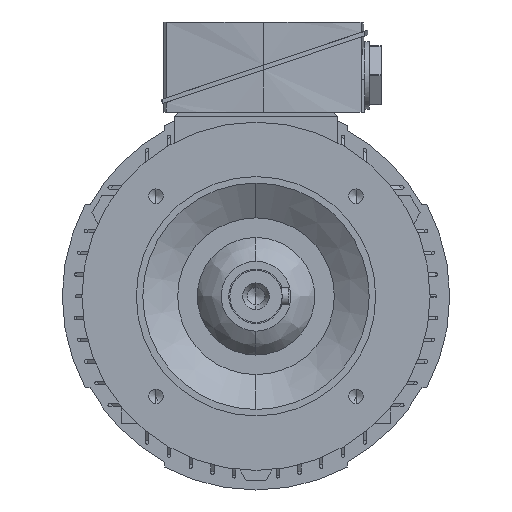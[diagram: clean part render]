
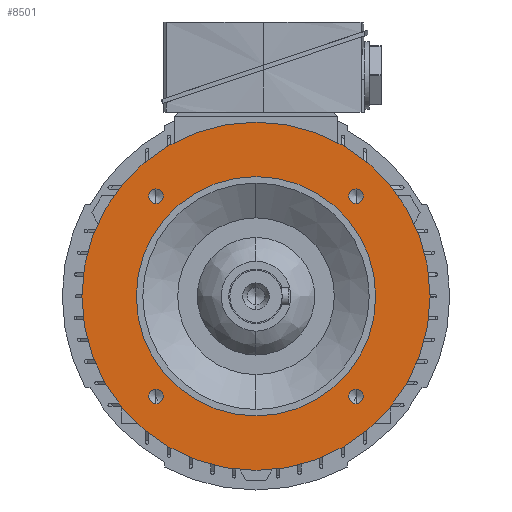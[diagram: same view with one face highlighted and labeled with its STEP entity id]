
A CAD part, left-side view. The second image highlights one B-rep face of the part: STEP entity #8501.
In plain terms, the highlighted planar face has unit normal (-1, 0, 0).
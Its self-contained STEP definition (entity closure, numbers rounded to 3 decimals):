
#284 = DIRECTION ( 'NONE',  ( 0., 0., -1. ) ) ;
#289 = DIRECTION ( 'NONE',  ( 1., 0., 0. ) ) ;
#323 = CARTESIAN_POINT ( 'NONE',  ( -34.5, -45.962, -45.962 ) ) ;
#349 = DIRECTION ( 'NONE',  ( 0., 0., -1. ) ) ;
#491 = AXIS2_PLACEMENT_3D ( 'NONE', #7673, #23101, #9908 ) ;
#1122 = VERTEX_POINT ( 'NONE', #16459 ) ;
#1784 = CARTESIAN_POINT ( 'NONE',  ( -34.5, 0., 80. ) ) ;
#1797 = EDGE_CURVE ( 'NONE', #17646, #19925, #3997, .T. ) ;
#1934 = CIRCLE ( 'NONE', #11428, 3.325 ) ;
#1961 = CARTESIAN_POINT ( 'NONE',  ( -34.5, 0., -55. ) ) ;
#2209 = EDGE_LOOP ( 'NONE', ( #9765, #15192 ) ) ;
#2212 = DIRECTION ( 'NONE',  ( 0., 0., -1. ) ) ;
#2410 = CARTESIAN_POINT ( 'NONE',  ( -34.5, 45.962, -49.287 ) ) ;
#2468 = FACE_BOUND ( 'NONE', #16124, .T. ) ;
#2691 = DIRECTION ( 'NONE',  ( 1., 0., 0. ) ) ;
#3179 = FACE_BOUND ( 'NONE', #27789, .T. ) ;
#3222 = DIRECTION ( 'NONE',  ( 1., 0., 0. ) ) ;
#3997 = CIRCLE ( 'NONE', #21511, 55. ) ;
#4158 = CIRCLE ( 'NONE', #13839, 3.325 ) ;
#4229 = EDGE_CURVE ( 'NONE', #8254, #6960, #12670, .T. ) ;
#4341 = ORIENTED_EDGE ( 'NONE', *, *, #20836, .T. ) ;
#4435 = CARTESIAN_POINT ( 'NONE',  ( -34.5, 45.962, -42.637 ) ) ;
#4541 = CARTESIAN_POINT ( 'NONE',  ( -34.5, -45.962, -49.287 ) ) ;
#4570 = EDGE_CURVE ( 'NONE', #13149, #13145, #13959, .T. ) ;
#5327 = PLANE ( 'NONE',  #491 ) ;
#5678 = DIRECTION ( 'NONE',  ( 0., 0., -1. ) ) ;
#5691 = ORIENTED_EDGE ( 'NONE', *, *, #18235, .T. ) ;
#5720 = DIRECTION ( 'NONE',  ( 1., 0., 0. ) ) ;
#5740 = CARTESIAN_POINT ( 'NONE',  ( -34.5, 45.962, -45.962 ) ) ;
#5813 = EDGE_CURVE ( 'NONE', #9642, #10492, #26911, .T. ) ;
#5888 = DIRECTION ( 'NONE',  ( 1., 0., 0. ) ) ;
#6428 = EDGE_LOOP ( 'NONE', ( #23388, #4341 ) ) ;
#6960 = VERTEX_POINT ( 'NONE', #4435 ) ;
#7417 = DIRECTION ( 'NONE',  ( 0., 0., 1. ) ) ;
#7639 = CIRCLE ( 'NONE', #15076, 55. ) ;
#7673 = CARTESIAN_POINT ( 'NONE',  ( -34.5, 0., 67.5 ) ) ;
#8254 = VERTEX_POINT ( 'NONE', #2410 ) ;
#8402 = FACE_BOUND ( 'NONE', #6428, .T. ) ;
#8501 = ADVANCED_FACE ( 'NONE', ( #9107, #20867, #3179, #14979, #8402, #2468 ), #5327, .T. ) ;
#8548 = CARTESIAN_POINT ( 'NONE',  ( -34.5, -45.962, 45.962 ) ) ;
#8994 = CIRCLE ( 'NONE', #17457, 3.325 ) ;
#9035 = CARTESIAN_POINT ( 'NONE',  ( -34.5, -45.962, 42.637 ) ) ;
#9107 = FACE_BOUND ( 'NONE', #18888, .T. ) ;
#9642 = VERTEX_POINT ( 'NONE', #16239 ) ;
#9765 = ORIENTED_EDGE ( 'NONE', *, *, #10985, .F. ) ;
#9908 = DIRECTION ( 'NONE',  ( 0., 0., 1. ) ) ;
#10124 = VERTEX_POINT ( 'NONE', #24705 ) ;
#10492 = VERTEX_POINT ( 'NONE', #1784 ) ;
#10734 = CARTESIAN_POINT ( 'NONE',  ( -34.5, 0., 55. ) ) ;
#10779 = DIRECTION ( 'NONE',  ( 0., 0., -1. ) ) ;
#10890 = DIRECTION ( 'NONE',  ( 1., 0., 0. ) ) ;
#10985 = EDGE_CURVE ( 'NONE', #10492, #9642, #26012, .T. ) ;
#11428 = AXIS2_PLACEMENT_3D ( 'NONE', #26847, #13687, #349 ) ;
#11454 = ORIENTED_EDGE ( 'NONE', *, *, #1797, .T. ) ;
#11821 = DIRECTION ( 'NONE',  ( 1., 0., 0. ) ) ;
#12478 = EDGE_CURVE ( 'NONE', #10124, #1122, #4158, .T. ) ;
#12670 = CIRCLE ( 'NONE', #19208, 3.325 ) ;
#12747 = CARTESIAN_POINT ( 'NONE',  ( -34.5, -45.962, -45.962 ) ) ;
#12857 = CARTESIAN_POINT ( 'NONE',  ( -34.5, -45.962, 49.287 ) ) ;
#12960 = ORIENTED_EDGE ( 'NONE', *, *, #4229, .T. ) ;
#13145 = VERTEX_POINT ( 'NONE', #20045 ) ;
#13149 = VERTEX_POINT ( 'NONE', #4541 ) ;
#13162 = VERTEX_POINT ( 'NONE', #9035 ) ;
#13687 = DIRECTION ( 'NONE',  ( 1., 0., 0. ) ) ;
#13839 = AXIS2_PLACEMENT_3D ( 'NONE', #24065, #10890, #26293 ) ;
#13932 = ORIENTED_EDGE ( 'NONE', *, *, #22651, .T. ) ;
#13959 = CIRCLE ( 'NONE', #25443, 3.325 ) ;
#14387 = ORIENTED_EDGE ( 'NONE', *, *, #12478, .T. ) ;
#14941 = DIRECTION ( 'NONE',  ( 0., 0., -1. ) ) ;
#14979 = FACE_BOUND ( 'NONE', #15075, .T. ) ;
#15075 = EDGE_LOOP ( 'NONE', ( #12960, #18256 ) ) ;
#15076 = AXIS2_PLACEMENT_3D ( 'NONE', #19136, #5888, #21350 ) ;
#15192 = ORIENTED_EDGE ( 'NONE', *, *, #5813, .F. ) ;
#15525 = DIRECTION ( 'NONE',  ( 1., 0., 0. ) ) ;
#15988 = CARTESIAN_POINT ( 'NONE',  ( -34.5, 0., 0. ) ) ;
#16124 = EDGE_LOOP ( 'NONE', ( #25696, #13932 ) ) ;
#16239 = CARTESIAN_POINT ( 'NONE',  ( -34.5, 0., -80. ) ) ;
#16459 = CARTESIAN_POINT ( 'NONE',  ( -34.5, 45.962, 49.287 ) ) ;
#16518 = CARTESIAN_POINT ( 'NONE',  ( -34.5, 0., 0. ) ) ;
#17185 = AXIS2_PLACEMENT_3D ( 'NONE', #28676, #15525, #2212 ) ;
#17332 = ORIENTED_EDGE ( 'NONE', *, *, #22076, .T. ) ;
#17404 = EDGE_CURVE ( 'NONE', #6960, #8254, #26693, .T. ) ;
#17457 = AXIS2_PLACEMENT_3D ( 'NONE', #12747, #28091, #14941 ) ;
#17646 = VERTEX_POINT ( 'NONE', #1961 ) ;
#18003 = CIRCLE ( 'NONE', #22453, 3.325 ) ;
#18213 = DIRECTION ( 'NONE',  ( 0., 0., 1. ) ) ;
#18235 = EDGE_CURVE ( 'NONE', #1122, #10124, #1934, .T. ) ;
#18256 = ORIENTED_EDGE ( 'NONE', *, *, #17404, .T. ) ;
#18737 = DIRECTION ( 'NONE',  ( 0., 0., 1. ) ) ;
#18888 = EDGE_LOOP ( 'NONE', ( #17332, #11454 ) ) ;
#19136 = CARTESIAN_POINT ( 'NONE',  ( -34.5, 0., 0. ) ) ;
#19208 = AXIS2_PLACEMENT_3D ( 'NONE', #5740, #5720, #5678 ) ;
#19925 = VERTEX_POINT ( 'NONE', #10734 ) ;
#20045 = CARTESIAN_POINT ( 'NONE',  ( -34.5, -45.962, -42.637 ) ) ;
#20651 = AXIS2_PLACEMENT_3D ( 'NONE', #24967, #11821, #27204 ) ;
#20836 = EDGE_CURVE ( 'NONE', #13145, #13149, #8994, .T. ) ;
#20867 = FACE_OUTER_BOUND ( 'NONE', #2209, .T. ) ;
#21350 = DIRECTION ( 'NONE',  ( 0., 0., 1. ) ) ;
#21511 = AXIS2_PLACEMENT_3D ( 'NONE', #21734, #23396, #7417 ) ;
#21734 = CARTESIAN_POINT ( 'NONE',  ( -34.5, 0., 0. ) ) ;
#22076 = EDGE_CURVE ( 'NONE', #19925, #17646, #7639, .T. ) ;
#22453 = AXIS2_PLACEMENT_3D ( 'NONE', #8548, #23945, #10779 ) ;
#22651 = EDGE_CURVE ( 'NONE', #23531, #13162, #18003, .T. ) ;
#23101 = DIRECTION ( 'NONE',  ( -1., 0., 0. ) ) ;
#23388 = ORIENTED_EDGE ( 'NONE', *, *, #4570, .T. ) ;
#23396 = DIRECTION ( 'NONE',  ( 1., 0., 0. ) ) ;
#23531 = VERTEX_POINT ( 'NONE', #12857 ) ;
#23945 = DIRECTION ( 'NONE',  ( 1., 0., 0. ) ) ;
#24065 = CARTESIAN_POINT ( 'NONE',  ( -34.5, 45.962, 45.962 ) ) ;
#24705 = CARTESIAN_POINT ( 'NONE',  ( -34.5, 45.962, 42.637 ) ) ;
#24967 = CARTESIAN_POINT ( 'NONE',  ( -34.5, 45.962, -45.962 ) ) ;
#25075 = EDGE_CURVE ( 'NONE', #13162, #23531, #27782, .T. ) ;
#25443 = AXIS2_PLACEMENT_3D ( 'NONE', #323, #289, #284 ) ;
#25696 = ORIENTED_EDGE ( 'NONE', *, *, #25075, .T. ) ;
#26012 = CIRCLE ( 'NONE', #28656, 80. ) ;
#26293 = DIRECTION ( 'NONE',  ( 0., 0., -1. ) ) ;
#26693 = CIRCLE ( 'NONE', #20651, 3.325 ) ;
#26847 = CARTESIAN_POINT ( 'NONE',  ( -34.5, 45.962, 45.962 ) ) ;
#26911 = CIRCLE ( 'NONE', #27636, 80. ) ;
#27204 = DIRECTION ( 'NONE',  ( 0., 0., -1. ) ) ;
#27636 = AXIS2_PLACEMENT_3D ( 'NONE', #15988, #2691, #18213 ) ;
#27782 = CIRCLE ( 'NONE', #17185, 3.325 ) ;
#27789 = EDGE_LOOP ( 'NONE', ( #14387, #5691 ) ) ;
#28091 = DIRECTION ( 'NONE',  ( 1., 0., 0. ) ) ;
#28656 = AXIS2_PLACEMENT_3D ( 'NONE', #16518, #3222, #18737 ) ;
#28676 = CARTESIAN_POINT ( 'NONE',  ( -34.5, -45.962, 45.962 ) ) ;
